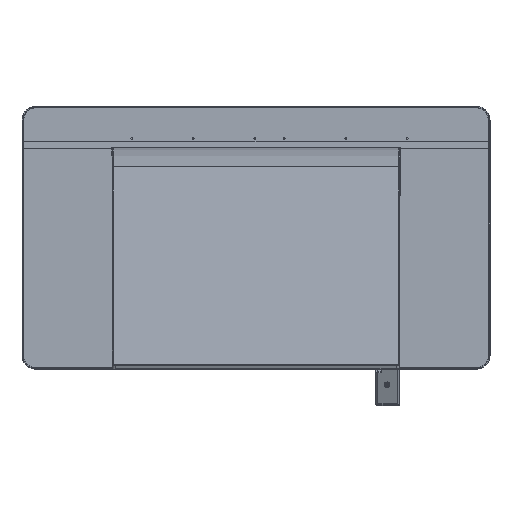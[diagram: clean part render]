
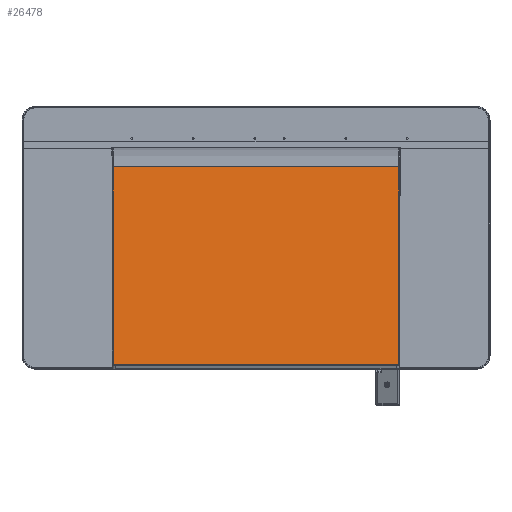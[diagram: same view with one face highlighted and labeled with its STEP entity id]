
A CAD part, top view. The second image highlights one B-rep face of the part: STEP entity #26478.
In plain terms, the highlighted planar face has unit normal (0, 0.906, 0.423) as drawn and (-0.906, 0.423, 0) by its records, which use the part's own axes.
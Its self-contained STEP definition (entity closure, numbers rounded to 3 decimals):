
#69=B_SPLINE_CURVE_WITH_KNOTS('',3,(#46159,#46160,#46161,#46162,#46163,
#46164,#46165,#46166,#46167,#46168),.UNSPECIFIED.,.F.,.U.,(4,2,2,2,4),(0.,
0.25,0.5,0.75,1.),.UNSPECIFIED.);
#70=B_SPLINE_CURVE_WITH_KNOTS('',3,(#46173,#46174,#46175,#46176,#46177,
#46178,#46179,#46180,#46181,#46182),.UNSPECIFIED.,.F.,.U.,(4,2,2,2,4),(0.,
0.25,0.5,0.75,1.),.UNSPECIFIED.);
#1602=PLANE('',#29922);
#2864=VECTOR('',#37918,1.);
#2875=VECTOR('',#37956,1.);
#2876=VECTOR('',#37957,1.);
#2877=VECTOR('',#37958,1.);
#4274=LINE('',#46064,#2864);
#4285=LINE('',#46171,#2875);
#4286=LINE('',#46184,#2876);
#4287=LINE('',#46185,#2877);
#6698=VERTEX_POINT('',#46063);
#6699=VERTEX_POINT('',#46065);
#6713=VERTEX_POINT('',#46169);
#6714=VERTEX_POINT('',#46170);
#6715=VERTEX_POINT('',#46172);
#6716=VERTEX_POINT('',#46183);
#12595=EDGE_CURVE('',#6698,#6699,#4274,.T.);
#12620=EDGE_CURVE('',#6713,#6714,#69,.T.);
#12621=EDGE_CURVE('',#6714,#6715,#4285,.T.);
#12622=EDGE_CURVE('',#6715,#6716,#70,.T.);
#12623=EDGE_CURVE('',#6716,#6699,#4286,.T.);
#12624=EDGE_CURVE('',#6698,#6713,#4287,.T.);
#19666=ORIENTED_EDGE('',*,*,#12620,.T.);
#19667=ORIENTED_EDGE('',*,*,#12621,.T.);
#19668=ORIENTED_EDGE('',*,*,#12622,.T.);
#19669=ORIENTED_EDGE('',*,*,#12623,.T.);
#19670=ORIENTED_EDGE('',*,*,#12595,.F.);
#19671=ORIENTED_EDGE('',*,*,#12624,.T.);
#22711=EDGE_LOOP('',(#19666,#19667,#19668,#19669,#19670,#19671));
#25098=FACE_BOUND('',#22711,.T.);
#26478=ADVANCED_FACE('',(#25098),#1602,.T.);
#29922=AXIS2_PLACEMENT_3D('',#46158,#37955,$);
#37918=DIRECTION('',(0.,0.,-1.));
#37955=DIRECTION('',(-0.906,0.423,0.));
#37956=DIRECTION('',(0.,0.,-1.));
#37957=DIRECTION('',(-0.423,-0.906,0.));
#37958=DIRECTION('',(0.423,0.906,0.));
#46063=CARTESIAN_POINT('',(28.108,60.277,209.));
#46064=CARTESIAN_POINT('',(28.108,60.277,209.));
#46065=CARTESIAN_POINT('',(28.108,60.277,-209.));
#46158=CARTESIAN_POINT('',(318.022,682.,-210.));
#46159=CARTESIAN_POINT('',(316.331,678.375,209.));
#46160=CARTESIAN_POINT('',(316.499,678.735,209.));
#46161=CARTESIAN_POINT('',(316.661,679.083,208.923));
#46162=CARTESIAN_POINT('',(316.972,679.748,208.62));
#46163=CARTESIAN_POINT('',(317.109,680.043,208.402));
#46164=CARTESIAN_POINT('',(317.347,680.552,207.841));
#46165=CARTESIAN_POINT('',(317.438,680.749,207.515));
#46166=CARTESIAN_POINT('',(317.567,681.025,206.781));
#46167=CARTESIAN_POINT('',(317.599,681.094,206.398));
#46168=CARTESIAN_POINT('',(317.599,681.094,206.));
#46169=CARTESIAN_POINT('',(316.331,678.375,209.));
#46170=CARTESIAN_POINT('',(317.599,681.094,206.));
#46171=CARTESIAN_POINT('',(317.599,681.094,206.));
#46172=CARTESIAN_POINT('',(317.599,681.094,-206.));
#46173=CARTESIAN_POINT('',(317.599,681.094,-206.));
#46174=CARTESIAN_POINT('',(317.599,681.094,-206.397));
#46175=CARTESIAN_POINT('',(317.567,681.024,-206.781));
#46176=CARTESIAN_POINT('',(317.439,680.749,-207.515));
#46177=CARTESIAN_POINT('',(317.346,680.552,-207.84));
#46178=CARTESIAN_POINT('',(317.109,680.043,-208.402));
#46179=CARTESIAN_POINT('',(316.972,679.748,-208.619));
#46180=CARTESIAN_POINT('',(316.661,679.082,-208.924));
#46181=CARTESIAN_POINT('',(316.5,678.736,-209.));
#46182=CARTESIAN_POINT('',(316.331,678.375,-209.));
#46183=CARTESIAN_POINT('',(316.331,678.375,-209.));
#46184=CARTESIAN_POINT('',(316.331,678.375,-209.));
#46185=CARTESIAN_POINT('',(28.108,60.277,209.));
